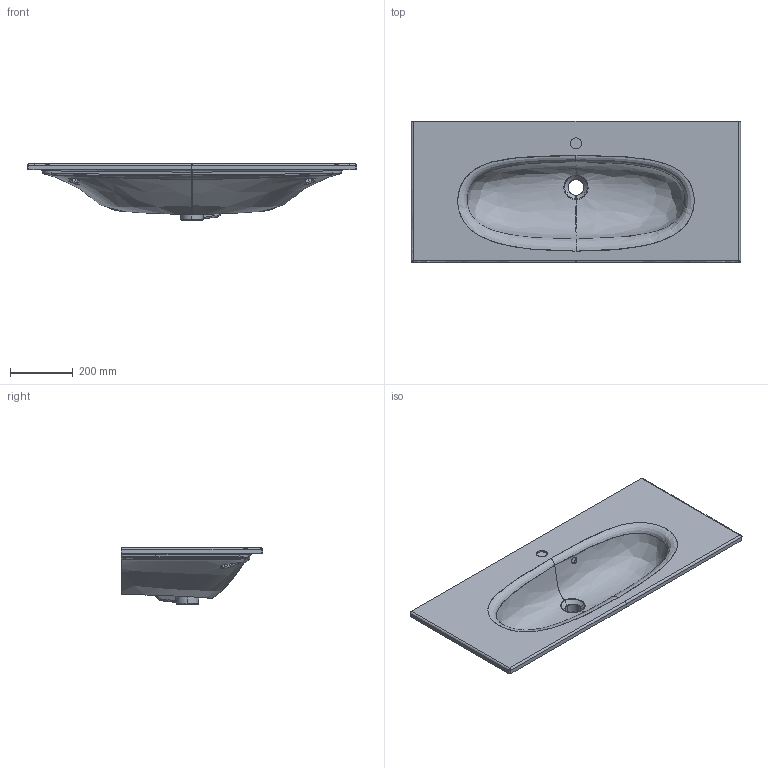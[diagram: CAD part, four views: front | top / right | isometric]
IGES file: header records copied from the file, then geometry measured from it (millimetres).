
Start section: START RECORD GO HERE.
Global section: file name: lavabo sosp 105 slim.igs; native system: IBM CATIA IGES - CATIA Version 5 Release 17 ; preprocessor: CATIA Version 5 Release 17 ; author: Luca; organization: PC-Luca; date: 20121108.152309; units: millimetre
Bounding box: 1050 x 450 x 180.16 mm (x, y, z)
Surface area: 1380712.5 mm2 (no closed solid volume)
Topology: 0 solids, 0 shells, 396 faces, 1868 edges, 1844 vertices
Faces by surface type: bspline 396
